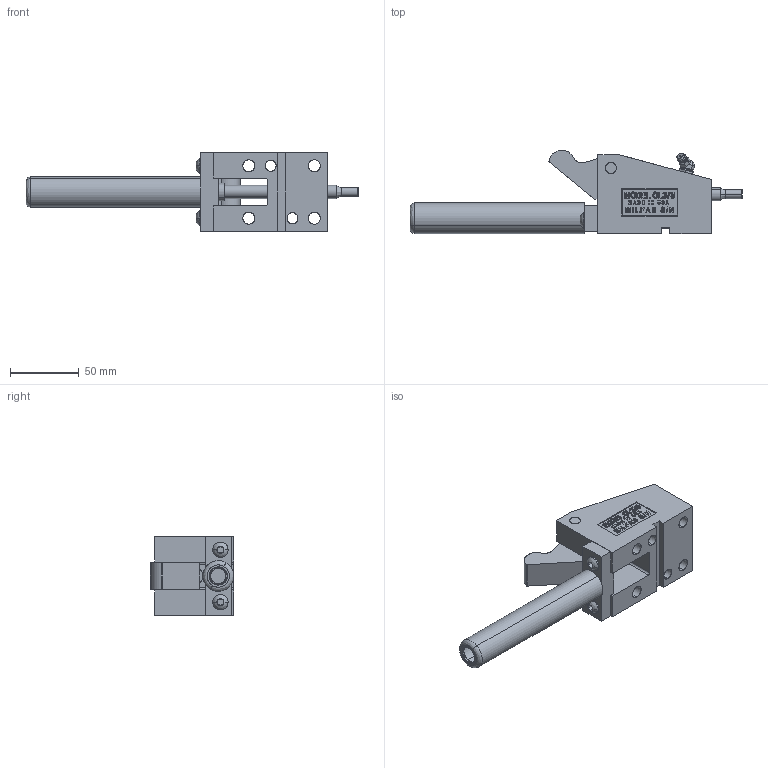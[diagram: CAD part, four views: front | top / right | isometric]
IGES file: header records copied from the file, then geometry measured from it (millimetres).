
Start section: SolidWorks IGES file using analytic representation for surfaces
Global section: file name: Y:\JIM'S INCH CAM UNITS\OL37545\OPEN\OL37545-O.IGS; native system: SolidWorks 2006 by SolidWorks Corporation; preprocessor: SolidWorks 2006 by SolidWorks Corporation; author: Jim; date: 090205.105855; units: inch
Bounding box: 241.3 x 60.44 x 57.15 mm (x, y, z)
Surface area: 69942 mm2 (no closed solid volume)
Topology: 0 solids, 0 shells, 585 faces, 7547 edges, 7545 vertices
Faces by surface type: bspline 459, revolution 126
